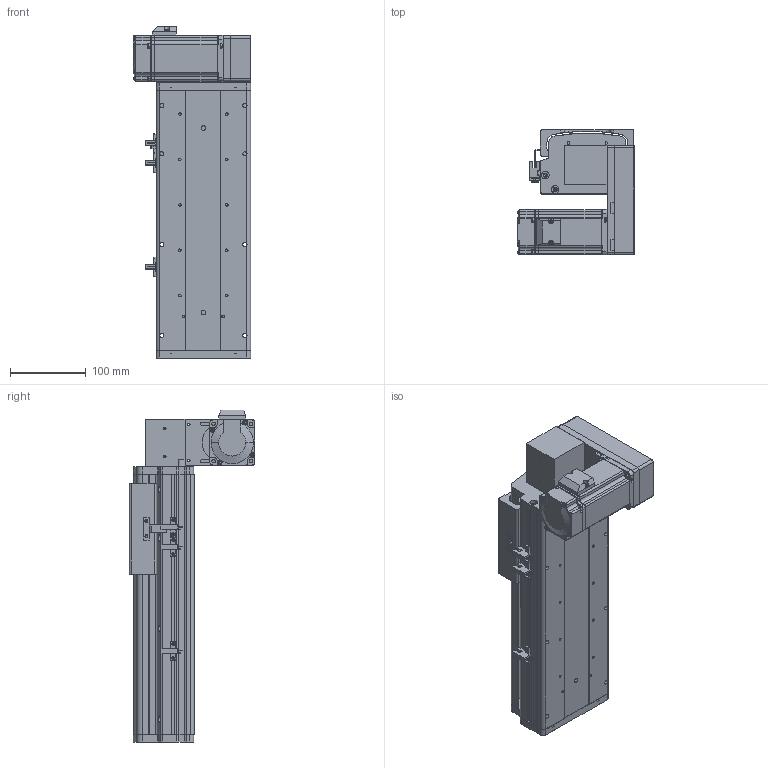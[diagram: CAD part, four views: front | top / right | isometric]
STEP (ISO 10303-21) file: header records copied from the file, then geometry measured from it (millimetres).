
FILE_DESCRIPTION (( 'STEP AP214' ), '1' );
FILE_NAME ('KSD125B-S150-MLD-CM.STEP', '2017-10-21T02:09:09', ( '微软用户' ), ( '微软中国' ), 'SwSTEP 2.0', 'SolidWorks 2014', '' );
FILE_SCHEMA (( 'AUTOMOTIVE_DESIGN' ));
Length unit declared in the file: millimetre
Products named in the file (17): 悵誘欶奻狟殏; 100宽马达安装板连板上下折丝杆同步带; HTPA30S3M150_A_H6_a佪裝蚚; HTPA30S3M150_A_H6_a萇儂蚚; 100宽马达安装板同步带左; KSD125模组150行程同步带-防尘盖; 125模组150行程同步带-底板; MHMD042G1CA_2_03; KSD125模组同步带-防撞垫2; 覜茼え68遵圉猾敕; U倰嫖萇假蚾璃; U倰嫖萇EEㄜSX672; KSD125模组同步带-防撞垫1; 前端板-125宽模组同步带; 125模组同步带-尾端板1; KSD125模组同步带-滑动座1; KSD125B-S150-MLD-CM
Assembly tree (20 placements, depth 2):
  KSD125B-S150-MLD-CM
    KSD125模组同步带-滑动座1
    125模组同步带-尾端板1
    前端板-125宽模组同步带
    KSD125模组同步带-防撞垫1
    U倰嫖萇EEㄜSX672  x3
    U倰嫖萇假蚾璃  x3
    覜茼え68遵圉猾敕
    KSD125模组同步带-防撞垫2
    MHMD042G1CA_2_03
    125模组150行程同步带-底板
    KSD125模组150行程同步带-防尘盖
    100宽马达安装板同步带左
    HTPA30S3M150_A_H6_a萇儂蚚
    HTPA30S3M150_A_H6_a佪裝蚚
    100宽马达安装板连板上下折丝杆同步带
    悵誘欶奻狟殏
Bounding box: 155 x 166.5 x 439 mm (x, y, z)
Volume: 1655188.9 mm3; surface area: 606443.7 mm2
Topology: 19 solids, 22 shells, 2195 faces, 6349 edges, 4194 vertices
Faces by surface type: cylinder 1352, plane 716, cone 105, bspline 22
Entity records: 77459 total; most frequent: CARTESIAN_POINT 15363, DIRECTION 12058, ORIENTED_EDGE 11218, EDGE_CURVE 5687, AXIS2_PLACEMENT_3D 4641, VERTEX_POINT 3786, VECTOR 2776, LINE 2776
